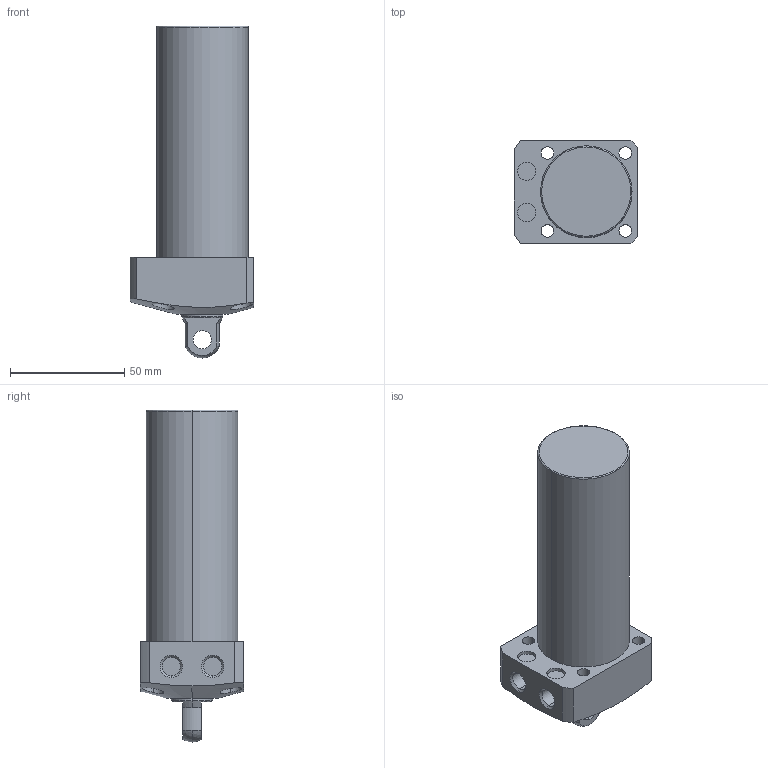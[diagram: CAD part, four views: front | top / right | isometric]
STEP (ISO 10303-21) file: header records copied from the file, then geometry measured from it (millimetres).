
FILE_DESCRIPTION (( 'STEP AP203' ), '1' );
FILE_NAME ('CLL040-CP-075.STEP', '2017-05-17T08:00:06', ( '' ), ( '' ), 'SwSTEP 2.0', 'SolidWorks 2015', '' );
FILE_SCHEMA (( 'CONFIG_CONTROL_DESIGN' ));
Length unit declared in the file: millimetre
Products named in the file (1): CLL040-CP-075
Bounding box: 54 x 45 x 145 mm (x, y, z)
Volume: 178175.6 mm3; surface area: 24705.4 mm2
Topology: 1 solids, 1 shells, 68 faces, 159 edges, 103 vertices
Faces by surface type: cylinder 35, plane 21, cone 8, sphere 2, torus 2
Entity records: 2372 total; most frequent: CARTESIAN_POINT 675, DIRECTION 357, ORIENTED_EDGE 318, EDGE_CURVE 159, AXIS2_PLACEMENT_3D 149, VERTEX_POINT 103, EDGE_LOOP 88, CIRCLE 80
